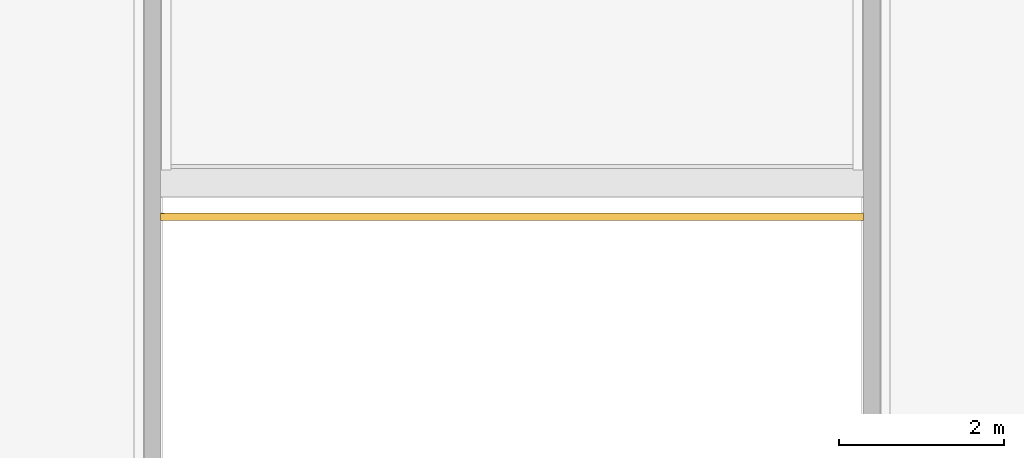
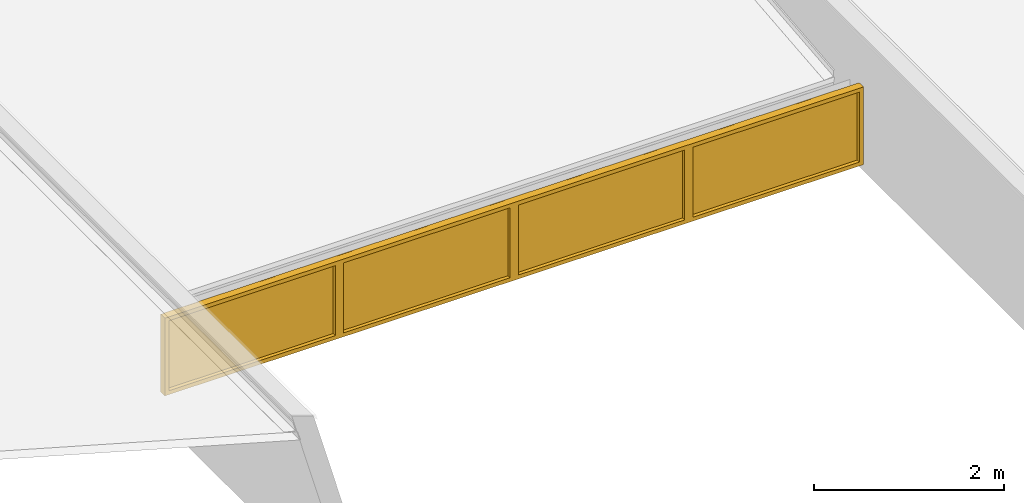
# One storey, part 24 of 25: 1 shading device.
"""IFC4 building model written with IfcOpenShell, lengths in metres."""

from ifc_helpers import new_model, entity, si_unit, converted_unit, derived_unit, direction, frame, origin_with_axes, place, context, subcontext, project, spatial, polygons, material, constituent, constituent_set, type_object, element, save


model = new_model("IFC4")

# Units and contexts
model_context = context("Model", 3, precision=1e-05, world=origin_with_axes(), true_north=direction((0.0, 1.0)))
body_context = subcontext(model_context, "Body", "Model", "MODEL_VIEW")
ifc_project = project(units=[si_unit("LENGTHUNIT", "METRE"), si_unit("AREAUNIT", "SQUARE_METRE"), si_unit("VOLUMEUNIT", "CUBIC_METRE"), converted_unit("PLANEANGLEUNIT", "DEGREE", entity("IfcPlaneAngleMeasure", 0.0174532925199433), si_unit("PLANEANGLEUNIT", "RADIAN"), dimensions=[0, 0, 0, 0, 0, 0, 0]), converted_unit("TIMEUNIT", "Year", entity("IfcTimeMeasure", 31557600.0), si_unit("TIMEUNIT", "SECOND"), dimensions=[0, 0, 1, 0, 0, 0, 0]), si_unit("MASSUNIT", "GRAM", prefix="KILO"), si_unit("THERMODYNAMICTEMPERATUREUNIT", "DEGREE_CELSIUS"), si_unit("LUMINOUSINTENSITYUNIT", "LUMEN"), si_unit("ENERGYUNIT", "JOULE", prefix="MEGA"), derived_unit("THERMALCONDUCTANCEUNIT", [(si_unit("POWERUNIT", "WATT"), 1), (si_unit("LENGTHUNIT", "METRE"), -1), (si_unit("THERMODYNAMICTEMPERATUREUNIT", "KELVIN"), -1)]), derived_unit("SPECIFICHEATCAPACITYUNIT", [(si_unit("ENERGYUNIT", "JOULE"), 1), (si_unit("MASSUNIT", "GRAM", prefix="KILO"), -1), (si_unit("THERMODYNAMICTEMPERATUREUNIT", "KELVIN"), -1)]), derived_unit("MASSDENSITYUNIT", [(si_unit("MASSUNIT", "GRAM", prefix="KILO"), 1), (si_unit("VOLUMEUNIT", "CUBIC_METRE"), -1)])], contexts=[model_context])

# Site, building, storey
site_placement = place(None, origin_with_axes())
site = spatial("IfcSite", under=ifc_project, at=site_placement, Name="PADRÃO", CompositionType="ELEMENT")
building_placement = place(site_placement, origin_with_axes())
building = spatial("IfcBuilding", under=site, at=building_placement, Name="CRECHE PRÉ-ESCOLA TIPO 2", CompositionType="ELEMENT")
storey_placement = place(building_placement, frame((0.0, 0.0, 3.26), z_axis=(0.0, 0.0, 1.0), x_axis=(1.0, 0.0, 0.0)))
storey = spatial("IfcBuildingStorey", under=building, at=storey_placement, Name="COBERTURA", CompositionType="ELEMENT", Elevation=3.26)

# Shading device
ifc_material_1 = material(Name="EI-MTL-PERFIL EM AÇO GALVANIZADO -AZUL")
ifc_constituent_1 = constituent(ifc_material_1, Name="EI-MTL-PERFIL EM AÇO GALVANIZADO -AZUL 1")
ifc_constituent_2 = constituent(ifc_material_1, Name="EI-MTL-PERFIL EM AÇO GALVANIZADO -AZUL 2")
ifc_material_2 = material(Name="EI-MTL-CHAPA DE AÇO CARBONO PERFURADA -AZUL")
ifc_constituent_3 = constituent(ifc_material_2, Name="EI-MTL-CHAPA DE AÇO CARBONO PERFURADA -AZUL 1")
ifc_constituent_4 = constituent(ifc_material_1, Name="EI-MTL-PERFIL EM AÇO GALVANIZADO -AZUL 3")
ifc_constituent_5 = constituent(ifc_material_1, Name="EI-MTL-PERFIL EM AÇO GALVANIZADO -AZUL 4")
ifc_material_3 = material(Name="Volume de Ar - Moldura")
ifc_constituent_6 = constituent(ifc_material_3, Name="Volume de Ar - Moldura 1")
ifc_constituent_7 = constituent(ifc_material_1, Name="EI-MTL-PERFIL EM AÇO GALVANIZADO -AZUL 5")
ifc_constituent_8 = constituent(ifc_material_1, Name="EI-MTL-PERFIL EM AÇO GALVANIZADO -AZUL 6")
ifc_constituent_9 = constituent(ifc_material_2, Name="EI-MTL-CHAPA DE AÇO CARBONO PERFURADA -AZUL 2")
ifc_constituent_10 = constituent(ifc_material_1, Name="EI-MTL-PERFIL EM AÇO GALVANIZADO -AZUL 7")
ifc_constituent_11 = constituent(ifc_material_1, Name="EI-MTL-PERFIL EM AÇO GALVANIZADO -AZUL 8")
ifc_constituent_12 = constituent(ifc_material_3, Name="Volume de Ar - Moldura 2")
ifc_constituent_13 = constituent(ifc_material_1, Name="EI-MTL-PERFIL EM AÇO GALVANIZADO -AZUL 9")
ifc_constituent_14 = constituent(ifc_material_1, Name="EI-MTL-PERFIL EM AÇO GALVANIZADO -AZUL 10")
ifc_constituent_15 = constituent(ifc_material_2, Name="EI-MTL-CHAPA DE AÇO CARBONO PERFURADA -AZUL 3")
ifc_constituent_16 = constituent(ifc_material_1, Name="EI-MTL-PERFIL EM AÇO GALVANIZADO -AZUL 11")
ifc_constituent_17 = constituent(ifc_material_1, Name="EI-MTL-PERFIL EM AÇO GALVANIZADO -AZUL 12")
ifc_constituent_18 = constituent(ifc_material_3, Name="Volume de Ar - Moldura 3")
ifc_constituent_19 = constituent(ifc_material_1, Name="EI-MTL-PERFIL EM AÇO GALVANIZADO -AZUL 13")
ifc_constituent_20 = constituent(ifc_material_1, Name="EI-MTL-PERFIL EM AÇO GALVANIZADO -AZUL 14")
ifc_constituent_21 = constituent(ifc_material_2, Name="EI-MTL-CHAPA DE AÇO CARBONO PERFURADA -AZUL 4")
ifc_constituent_22 = constituent(ifc_material_1, Name="EI-MTL-PERFIL EM AÇO GALVANIZADO -AZUL 15")
ifc_constituent_23 = constituent(ifc_material_1, Name="EI-MTL-PERFIL EM AÇO GALVANIZADO -AZUL 16")
ifc_constituent_set = constituent_set(constituents=[ifc_constituent_1, ifc_constituent_2, ifc_constituent_3, ifc_constituent_4, ifc_constituent_5, ifc_constituent_6, ifc_constituent_7, ifc_constituent_8, ifc_constituent_9, ifc_constituent_10, ifc_constituent_11, ifc_constituent_12, ifc_constituent_13, ifc_constituent_14, ifc_constituent_15, ifc_constituent_16, ifc_constituent_17, ifc_constituent_18, ifc_constituent_19, ifc_constituent_20, ifc_constituent_21, ifc_constituent_22, ifc_constituent_23])
shading_device_type = type_object("IfcShadingDeviceType", Name="Várias Estruturas- 15 Segmentos - 90 x 1000 x 8500 (50+2024+50+1+50+2024+50+1+50+2024+50+1+50+2024+50)", PredefinedType="NOTDEFINED")
shading_device_placement = place(storey_placement, frame((-17.5400505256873, 10.200115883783, 0.0270000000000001), z_axis=(0.0, 0.0, 1.0), x_axis=(-8.64941134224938e-08, 0.999999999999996, 0.0)))
element("IfcShadingDevice", 1, at=shading_device_placement, inside=storey, type_object=shading_device_type, material=ifc_constituent_set, PredefinedType="NOTDEFINED", context=body_context, shape_type="Tessellation", body=[
    polygons([(0.0, 0.0500000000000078, -0.36), (0.0, 0.0500000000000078, 0.620858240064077), (0.0, 0.0, 0.620858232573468), (0.0, 0.0, -0.36), (-0.00668827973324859, 0.0500000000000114, 0.64), (-0.00668827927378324, 0.0500000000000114, 0.632442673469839), (-0.0899999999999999, 0.0500000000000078, -0.36), (-0.0899999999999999, 0.0500000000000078, 0.64), (-0.00668828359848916, 0.0, 0.632442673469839), (-0.00668828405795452, 0.0, 0.64), (-0.0899999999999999, 0.0, 0.64), (-0.0899999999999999, 0.0, -0.36)], [[[1, 2, 3, 4]], [[5, 6, 2, 1, 7, 8]], [[6, 9, 3, 2]], [[3, 9, 10, 11, 12, 4]], [[4, 12, 7, 1]], [[6, 5, 10, 9]], [[12, 11, 8, 7]], [[11, 10, 5, 8]]], closed=True),
    polygons([(0.0, 0.0, 0.64), (-0.00618828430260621, 0.0, 0.64), (-0.0061882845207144, 0.0, 0.632576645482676), (0.0, 0.0, 0.621858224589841), (0.0, 0.0500000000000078, 0.64), (-0.00618827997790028, 0.0500000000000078, 0.64), (-0.00618828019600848, 0.0500000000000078, 0.632576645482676), (0.0, 0.0500000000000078, 0.62185823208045)], [[[1, 2, 3, 4]], [[5, 6, 2, 1]], [[7, 3, 2, 6]], [[7, 8, 4, 3]], [[1, 4, 8, 5]], [[8, 7, 6, 5]]], closed=True),
    polygons([(0.0, 2.07425738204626, -0.31000000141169), (-0.0442499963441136, 2.07425738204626, -0.31000000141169), (-0.0442499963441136, 0.0500000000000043, -0.31000000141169), (0.0, 0.0500000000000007, -0.31000000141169), (0.0, 2.07425738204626, -0.36), (-0.0900000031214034, 2.07425738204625, -0.36), (-0.0900000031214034, 2.07425738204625, -0.31000000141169), (-0.0457500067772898, 2.07425738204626, -0.31000000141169), (-0.0457500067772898, 0.0500000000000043, -0.31000000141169), (-0.0900000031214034, 0.0500000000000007, -0.31000000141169), (-0.0900000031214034, 0.0500000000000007, -0.36), (0.0, 0.0500000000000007, -0.36)], [[[1, 2, 3, 4]], [[1, 5, 6, 7, 8, 2]], [[2, 8, 9, 3]], [[4, 3, 9, 10, 11, 12]], [[5, 1, 4, 12]], [[6, 5, 12, 11]], [[7, 6, 11, 10]], [[8, 7, 10, 9]]], closed=True),
    polygons([(-0.044249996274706, 2.07425738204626, 0.590000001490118), (-0.0457500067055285, 2.07425738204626, 0.590000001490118), (-0.0457500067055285, 0.0500000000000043, 0.590000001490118), (-0.044249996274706, 0.0500000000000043, 0.590000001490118), (-0.044249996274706, 2.07425738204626, -0.31), (-0.0457500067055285, 2.07425738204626, -0.31), (-0.0457500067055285, 0.0500000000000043, -0.31), (-0.044249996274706, 0.0500000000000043, -0.31)], [[[1, 2, 3, 4]], [[1, 5, 6, 2]], [[2, 6, 7, 3]], [[4, 3, 7, 8]], [[5, 1, 4, 8]], [[6, 5, 8, 7]]], closed=True),
    polygons([(0.0, 2.07425738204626, 0.62085854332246), (0.0, 0.0500000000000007, 0.620858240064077), (0.0, 0.0500000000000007, 0.59), (0.0, 2.07425738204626, 0.59), (-0.00668827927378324, 0.0500000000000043, 0.632442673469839), (-0.00668810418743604, 2.07425738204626, 0.632442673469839), (-0.00668827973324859, 0.0500000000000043, 0.64), (-0.0899999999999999, 0.0500000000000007, 0.64), (-0.0899999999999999, 0.0500000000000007, 0.59), (-0.0457500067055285, 0.0500000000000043, 0.590000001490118), (-0.044249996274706, 0.0500000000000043, 0.590000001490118), (-0.044249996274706, 2.07425738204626, 0.590000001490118), (-0.0457500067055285, 2.07425738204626, 0.590000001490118), (-0.0899999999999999, 2.07425738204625, 0.59), (-0.0899999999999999, 2.07425738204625, 0.64), (-0.00668810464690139, 2.07425738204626, 0.64)], [[[1, 2, 3, 4]], [[5, 2, 1, 6]], [[5, 7, 8, 9, 10, 11, 3, 2]], [[11, 12, 4, 3]], [[6, 1, 4, 12, 13, 14, 15, 16]], [[16, 7, 5, 6]], [[7, 16, 15, 8]], [[8, 15, 14, 9]], [[9, 14, 13, 10]], [[10, 13, 12, 11]]], closed=True),
    polygons([(-0.00618827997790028, 0.0500000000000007, 0.64), (-0.00618828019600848, 0.0500000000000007, 0.632576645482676), (0.0, 0.0500000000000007, 0.62185823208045), (0.0, 0.0500000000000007, 0.64), (-0.00618810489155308, 2.07425738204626, 0.64), (-0.00618810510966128, 2.07425738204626, 0.632576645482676), (0.0, 2.07425738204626, 0.621858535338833), (0.0, 2.07425738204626, 0.64)], [[[1, 2, 3, 4]], [[2, 1, 5, 6]], [[7, 3, 2, 6]], [[3, 7, 8, 4]], [[5, 1, 4, 8]], [[6, 5, 8, 7]]], closed=True),
    polygons([(0.0, 2.12425738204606, -0.36), (0.0, 2.12425738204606, 0.62085855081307), (0.0, 2.07425738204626, 0.62085854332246), (0.0, 2.07425738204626, -0.36), (-0.00668810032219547, 2.12425738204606, 0.64), (-0.00668809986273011, 2.12425738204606, 0.632442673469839), (-0.0899999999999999, 2.12425738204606, -0.36), (-0.0899999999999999, 2.12425738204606, 0.64), (-0.00668810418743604, 2.07425738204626, 0.632442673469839), (-0.00668810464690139, 2.07425738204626, 0.64), (-0.0899999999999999, 2.07425738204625, 0.64), (-0.0899999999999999, 2.07425738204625, -0.36)], [[[1, 2, 3, 4]], [[5, 6, 2, 1, 7, 8]], [[6, 9, 3, 2]], [[3, 9, 10, 11, 12, 4]], [[4, 12, 7, 1]], [[6, 5, 10, 9]], [[12, 11, 8, 7]], [[11, 10, 5, 8]]], closed=True),
    polygons([(0.0, 2.07425738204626, 0.64), (-0.00618810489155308, 2.07425738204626, 0.64), (-0.00618810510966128, 2.07425738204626, 0.632576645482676), (0.0, 2.07425738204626, 0.621858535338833), (0.0, 2.12425738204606, 0.64), (-0.00618810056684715, 2.12425738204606, 0.64), (-0.00618810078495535, 2.12425738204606, 0.632576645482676), (0.0, 2.12425738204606, 0.621858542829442)], [[[1, 2, 3, 4]], [[5, 6, 2, 1]], [[7, 3, 2, 6]], [[7, 8, 4, 3]], [[1, 4, 8, 5]], [[8, 7, 6, 5]]], closed=True),
    polygons([(0.0, 2.12525738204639, 0.620858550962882), (0.0, 2.12425738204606, 0.62085855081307), (0.0, 2.12425738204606, -0.36), (0.0, 2.12525738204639, -0.36), (-0.00668809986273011, 2.12425738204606, 0.632442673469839), (-0.00668809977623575, 2.12525738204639, 0.632442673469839), (-0.00668810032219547, 2.12425738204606, 0.64), (-0.0899999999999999, 2.12425738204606, 0.64), (-0.0899999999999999, 2.12425738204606, -0.36), (-0.0899999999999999, 2.12525738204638, -0.36), (-0.0899999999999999, 2.12525738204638, 0.64), (-0.0066881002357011, 2.12525738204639, 0.64)], [[[1, 2, 3, 4]], [[5, 2, 1, 6]], [[5, 7, 8, 9, 3, 2]], [[9, 10, 4, 3]], [[6, 1, 4, 10, 11, 12]], [[12, 7, 5, 6]], [[7, 12, 11, 8]], [[8, 11, 10, 9]]], closed=True),
    polygons([(-0.00618810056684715, 2.12425738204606, 0.64), (-0.00618810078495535, 2.12425738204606, 0.632576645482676), (0.0, 2.12425738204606, 0.621858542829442), (0.0, 2.12425738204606, 0.64), (-0.00618810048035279, 2.12525738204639, 0.64), (-0.00618810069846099, 2.12525738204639, 0.632576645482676), (0.0, 2.12525738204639, 0.621858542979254), (0.0, 2.12525738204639, 0.64)], [[[1, 2, 3, 4]], [[2, 1, 5, 6]], [[7, 3, 2, 6]], [[3, 7, 8, 4]], [[5, 1, 4, 8]], [[6, 5, 8, 7]]], closed=True),
    polygons([(0.0, 2.17525738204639, -0.36), (0.0, 2.17525738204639, 0.620858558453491), (0.0, 2.12525738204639, 0.620858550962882), (0.0, 2.12525738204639, -0.36), (-0.00668809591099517, 2.17525738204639, 0.64), (-0.00668809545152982, 2.17525738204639, 0.632442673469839), (-0.0900000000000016, 2.17525738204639, -0.36), (-0.0900000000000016, 2.17525738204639, 0.64), (-0.00668809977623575, 2.12525738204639, 0.632442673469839), (-0.0066881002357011, 2.12525738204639, 0.64), (-0.0899999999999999, 2.12525738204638, 0.64), (-0.0899999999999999, 2.12525738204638, -0.36)], [[[1, 2, 3, 4]], [[5, 6, 2, 1, 7, 8]], [[6, 9, 3, 2]], [[3, 9, 10, 11, 12, 4]], [[4, 12, 7, 1]], [[6, 5, 10, 9]], [[12, 11, 8, 7]], [[11, 10, 5, 8]]], closed=True),
    polygons([(0.0, 2.12525738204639, 0.64), (-0.00618810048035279, 2.12525738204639, 0.64), (-0.00618810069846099, 2.12525738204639, 0.632576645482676), (0.0, 2.12525738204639, 0.621858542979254), (0.0, 2.17525738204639, 0.64), (-0.00618809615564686, 2.17525738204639, 0.64), (-0.00618809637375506, 2.17525738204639, 0.632576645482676), (0.0, 2.17525738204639, 0.621858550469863)], [[[1, 2, 3, 4]], [[5, 6, 2, 1]], [[7, 3, 2, 6]], [[7, 8, 4, 3]], [[1, 4, 8, 5]], [[8, 7, 6, 5]]], closed=True),
    polygons([(0.0, 4.19951476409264, -0.31000000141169), (-0.0442499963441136, 4.19951476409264, -0.31000000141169), (-0.0442499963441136, 2.17525738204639, -0.31000000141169), (0.0, 2.17525738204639, -0.31000000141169), (0.0, 4.19951476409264, -0.36), (-0.0900000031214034, 4.19951476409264, -0.36), (-0.0900000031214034, 4.19951476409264, -0.31000000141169), (-0.0457500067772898, 4.19951476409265, -0.31000000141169), (-0.0457500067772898, 2.17525738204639, -0.31000000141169), (-0.0900000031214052, 2.17525738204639, -0.31000000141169), (-0.0900000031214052, 2.17525738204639, -0.36), (0.0, 2.17525738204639, -0.36)], [[[1, 2, 3, 4]], [[1, 5, 6, 7, 8, 2]], [[2, 8, 9, 3]], [[4, 3, 9, 10, 11, 12]], [[5, 1, 4, 12]], [[6, 5, 12, 11]], [[7, 6, 11, 10]], [[8, 7, 10, 9]]], closed=True),
    polygons([(-0.044249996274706, 4.19951476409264, 0.590000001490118), (-0.0457500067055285, 4.19951476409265, 0.590000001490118), (-0.0457500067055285, 2.17525738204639, 0.590000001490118), (-0.044249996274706, 2.17525738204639, 0.590000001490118), (-0.044249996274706, 4.19951476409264, -0.31), (-0.0457500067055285, 4.19951476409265, -0.31), (-0.0457500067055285, 2.17525738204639, -0.31), (-0.044249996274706, 2.17525738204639, -0.31)], [[[1, 2, 3, 4]], [[1, 5, 6, 2]], [[2, 6, 7, 3]], [[4, 3, 7, 8]], [[5, 1, 4, 8]], [[6, 5, 8, 7]]], closed=True),
    polygons([(0.0, 4.19951476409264, 0.620858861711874), (0.0, 2.17525738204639, 0.620858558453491), (0.0, 2.17525738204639, 0.59), (0.0, 4.19951476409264, 0.59), (-0.00668809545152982, 2.17525738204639, 0.632442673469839), (-0.00668792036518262, 4.19951476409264, 0.632442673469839), (-0.00668809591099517, 2.17525738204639, 0.64), (-0.0900000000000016, 2.17525738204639, 0.64), (-0.0900000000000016, 2.17525738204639, 0.59), (-0.0457500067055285, 2.17525738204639, 0.590000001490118), (-0.044249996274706, 2.17525738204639, 0.590000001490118), (-0.044249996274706, 4.19951476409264, 0.590000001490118), (-0.0457500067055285, 4.19951476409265, 0.590000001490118), (-0.0899999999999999, 4.19951476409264, 0.59), (-0.0899999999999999, 4.19951476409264, 0.64), (-0.00668792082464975, 4.19951476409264, 0.64)], [[[1, 2, 3, 4]], [[5, 2, 1, 6]], [[5, 7, 8, 9, 10, 11, 3, 2]], [[11, 12, 4, 3]], [[6, 1, 4, 12, 13, 14, 15, 16]], [[16, 7, 5, 6]], [[7, 16, 15, 8]], [[8, 15, 14, 9]], [[9, 14, 13, 10]], [[10, 13, 12, 11]]], closed=True),
    polygons([(-0.00618809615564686, 2.17525738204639, 0.64), (-0.00618809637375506, 2.17525738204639, 0.632576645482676), (0.0, 2.17525738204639, 0.621858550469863), (0.0, 2.17525738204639, 0.64), (-0.00618792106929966, 4.19951476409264, 0.64), (-0.00618792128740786, 4.19951476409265, 0.632576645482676), (0.0, 4.19951476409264, 0.621858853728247), (0.0, 4.19951476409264, 0.64)], [[[1, 2, 3, 4]], [[2, 1, 5, 6]], [[7, 3, 2, 6]], [[3, 7, 8, 4]], [[5, 1, 4, 8]], [[6, 5, 8, 7]]], closed=True),
    polygons([(0.0, 4.24951476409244, -0.36), (0.0, 4.24951476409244, 0.620858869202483), (0.0, 4.19951476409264, 0.620858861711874), (0.0, 4.19951476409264, -0.36), (-0.00668791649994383, 4.24951476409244, 0.64), (-0.00668791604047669, 4.24951476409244, 0.632442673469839), (-0.0899999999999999, 4.24951476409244, -0.36), (-0.0899999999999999, 4.24951476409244, 0.64), (-0.00668792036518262, 4.19951476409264, 0.632442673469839), (-0.00668792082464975, 4.19951476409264, 0.64), (-0.0899999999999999, 4.19951476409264, 0.64), (-0.0899999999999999, 4.19951476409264, -0.36)], [[[1, 2, 3, 4]], [[5, 6, 2, 1, 7, 8]], [[6, 9, 3, 2]], [[3, 9, 10, 11, 12, 4]], [[4, 12, 7, 1]], [[6, 5, 10, 9]], [[12, 11, 8, 7]], [[11, 10, 5, 8]]], closed=True),
    polygons([(0.0, 4.19951476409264, 0.64), (-0.00618792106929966, 4.19951476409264, 0.64), (-0.00618792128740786, 4.19951476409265, 0.632576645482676), (0.0, 4.19951476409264, 0.621858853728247), (0.0, 4.24951476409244, 0.64), (-0.00618791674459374, 4.24951476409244, 0.64), (-0.00618791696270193, 4.24951476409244, 0.632576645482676), (0.0, 4.24951476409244, 0.621858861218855)], [[[1, 2, 3, 4]], [[5, 6, 2, 1]], [[7, 3, 2, 6]], [[7, 8, 4, 3]], [[1, 4, 8, 5]], [[8, 7, 6, 5]]], closed=True),
    polygons([(0.0, 4.25051476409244, 0.620858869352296), (0.0, 4.24951476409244, 0.620858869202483), (0.0, 4.24951476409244, -0.36), (0.0, 4.25051476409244, -0.36), (-0.00668791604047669, 4.24951476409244, 0.632442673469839), (-0.00668791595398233, 4.25051476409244, 0.632442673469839), (-0.00668791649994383, 4.24951476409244, 0.64), (-0.0899999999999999, 4.24951476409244, 0.64), (-0.0899999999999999, 4.24951476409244, -0.36), (-0.0900000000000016, 4.25051476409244, -0.36), (-0.0900000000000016, 4.25051476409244, 0.64), (-0.00668791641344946, 4.25051476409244, 0.64)], [[[1, 2, 3, 4]], [[5, 2, 1, 6]], [[5, 7, 8, 9, 3, 2]], [[9, 10, 4, 3]], [[6, 1, 4, 10, 11, 12]], [[12, 7, 5, 6]], [[7, 12, 11, 8]], [[8, 11, 10, 9]]], closed=True),
    polygons([(-0.00618791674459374, 4.24951476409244, 0.64), (-0.00618791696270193, 4.24951476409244, 0.632576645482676), (0.0, 4.24951476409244, 0.621858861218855), (0.0, 4.24951476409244, 0.64), (-0.00618791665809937, 4.25051476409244, 0.64), (-0.00618791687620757, 4.25051476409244, 0.632576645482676), (0.0, 4.25051476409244, 0.621858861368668), (0.0, 4.25051476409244, 0.64)], [[[1, 2, 3, 4]], [[2, 1, 5, 6]], [[7, 3, 2, 6]], [[3, 7, 8, 4]], [[5, 1, 4, 8]], [[6, 5, 8, 7]]], closed=True),
    polygons([(0.0, 4.30051476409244, -0.36), (0.0, 4.30051476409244, 0.620858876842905), (0.0, 4.25051476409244, 0.620858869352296), (0.0, 4.25051476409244, -0.36), (-0.00668791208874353, 4.30051476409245, 0.64), (-0.0066879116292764, 4.30051476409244, 0.632442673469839), (-0.0900000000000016, 4.30051476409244, -0.36), (-0.0900000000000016, 4.30051476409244, 0.64), (-0.00668791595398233, 4.25051476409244, 0.632442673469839), (-0.00668791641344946, 4.25051476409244, 0.64), (-0.0900000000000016, 4.25051476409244, 0.64), (-0.0900000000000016, 4.25051476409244, -0.36)], [[[1, 2, 3, 4]], [[5, 6, 2, 1, 7, 8]], [[6, 9, 3, 2]], [[3, 9, 10, 11, 12, 4]], [[4, 12, 7, 1]], [[6, 5, 10, 9]], [[12, 11, 8, 7]], [[11, 10, 5, 8]]], closed=True),
    polygons([(0.0, 4.25051476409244, 0.64), (-0.00618791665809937, 4.25051476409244, 0.64), (-0.00618791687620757, 4.25051476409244, 0.632576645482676), (0.0, 4.25051476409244, 0.621858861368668), (0.0, 4.30051476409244, 0.64), (-0.00618791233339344, 4.30051476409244, 0.64), (-0.00618791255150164, 4.30051476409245, 0.632576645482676), (0.0, 4.30051476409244, 0.621858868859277)], [[[1, 2, 3, 4]], [[5, 6, 2, 1]], [[7, 3, 2, 6]], [[7, 8, 4, 3]], [[1, 4, 8, 5]], [[8, 7, 6, 5]]], closed=True),
    polygons([(0.0, 6.3247721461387, -0.31000000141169), (-0.0442499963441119, 6.3247721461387, -0.31000000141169), (-0.0442499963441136, 4.30051476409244, -0.31000000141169), (0.0, 4.30051476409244, -0.31000000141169), (0.0, 6.3247721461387, -0.36), (-0.0900000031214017, 6.3247721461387, -0.36), (-0.0900000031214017, 6.3247721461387, -0.31000000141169), (-0.045750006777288, 6.3247721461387, -0.31000000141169), (-0.0457500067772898, 4.30051476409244, -0.31000000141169), (-0.0900000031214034, 4.30051476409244, -0.31000000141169), (-0.0900000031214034, 4.30051476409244, -0.36), (0.0, 4.30051476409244, -0.36)], [[[1, 2, 3, 4]], [[1, 5, 6, 7, 8, 2]], [[2, 8, 9, 3]], [[4, 3, 9, 10, 11, 12]], [[5, 1, 4, 12]], [[6, 5, 12, 11]], [[7, 6, 11, 10]], [[8, 7, 10, 9]]], closed=True),
    polygons([(-0.0442499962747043, 6.3247721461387, 0.590000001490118), (-0.0457500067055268, 6.3247721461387, 0.590000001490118), (-0.0457500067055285, 4.30051476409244, 0.590000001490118), (-0.044249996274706, 4.30051476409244, 0.590000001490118), (-0.0442499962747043, 6.3247721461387, -0.31), (-0.0457500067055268, 6.3247721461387, -0.31), (-0.0457500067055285, 4.30051476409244, -0.31), (-0.044249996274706, 4.30051476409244, -0.31)], [[[1, 2, 3, 4]], [[1, 5, 6, 2]], [[2, 6, 7, 3]], [[4, 3, 7, 8]], [[5, 1, 4, 8]], [[6, 5, 8, 7]]], closed=True),
    polygons([(0.0, 6.3247721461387, 0.620859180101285), (0.0, 4.30051476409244, 0.620858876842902), (0.0, 4.30051476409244, 0.59), (0.0, 6.3247721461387, 0.59), (-0.0066879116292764, 4.30051476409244, 0.632442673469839), (-0.0066877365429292, 6.3247721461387, 0.632442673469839), (-0.00668791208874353, 4.30051476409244, 0.64), (-0.0899999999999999, 4.30051476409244, 0.64), (-0.0899999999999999, 4.30051476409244, 0.59), (-0.0457500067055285, 4.30051476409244, 0.590000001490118), (-0.044249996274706, 4.30051476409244, 0.590000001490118), (-0.0442499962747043, 6.3247721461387, 0.590000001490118), (-0.0457500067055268, 6.3247721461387, 0.590000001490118), (-0.0899999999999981, 6.3247721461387, 0.59), (-0.0899999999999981, 6.3247721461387, 0.64), (-0.00668773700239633, 6.3247721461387, 0.64)], [[[1, 2, 3, 4]], [[5, 2, 1, 6]], [[5, 7, 8, 9, 10, 11, 3, 2]], [[11, 12, 4, 3]], [[6, 1, 4, 12, 13, 14, 15, 16]], [[16, 7, 5, 6]], [[7, 16, 15, 8]], [[8, 15, 14, 9]], [[9, 14, 13, 10]], [[10, 13, 12, 11]]], closed=True),
    polygons([(-0.00618791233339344, 4.30051476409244, 0.64), (-0.00618791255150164, 4.30051476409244, 0.632576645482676), (0.0, 4.30051476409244, 0.621858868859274), (0.0, 4.30051476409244, 0.64), (-0.00618773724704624, 6.3247721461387, 0.64), (-0.00618773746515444, 6.3247721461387, 0.632576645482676), (0.0, 6.3247721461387, 0.621859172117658), (0.0, 6.3247721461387, 0.64)], [[[1, 2, 3, 4]], [[2, 1, 5, 6]], [[7, 3, 2, 6]], [[3, 7, 8, 4]], [[5, 1, 4, 8]], [[6, 5, 8, 7]]], closed=True),
    polygons([(0.0, 6.37478844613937, -0.36), (0.0, 6.37478844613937, 0.620859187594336), (0.0, 6.3247721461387, 0.620859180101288), (0.0, 6.3247721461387, -0.36), (-0.00668773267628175, 6.37478844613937, 0.64), (-0.00668773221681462, 6.37478844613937, 0.632442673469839), (-0.0899999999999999, 6.37478844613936, -0.36), (-0.0899999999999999, 6.37478844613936, 0.64), (-0.0066877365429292, 6.3247721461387, 0.632442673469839), (-0.00668773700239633, 6.3247721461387, 0.64), (-0.0899999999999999, 6.3247721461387, 0.64), (-0.0899999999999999, 6.3247721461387, -0.36)], [[[1, 2, 3, 4]], [[5, 6, 2, 1, 7, 8]], [[6, 9, 3, 2]], [[3, 9, 10, 11, 12, 4]], [[4, 12, 7, 1]], [[6, 5, 10, 9]], [[12, 11, 8, 7]], [[11, 10, 5, 8]]], closed=True),
    polygons([(0.0, 6.3247721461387, 0.64), (-0.00618773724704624, 6.3247721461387, 0.64), (-0.00618773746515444, 6.3247721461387, 0.632576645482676), (0.0, 6.3247721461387, 0.621859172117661), (0.0, 6.37478844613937, 0.64), (-0.00618773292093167, 6.37478844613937, 0.64), (-0.00618773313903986, 6.37478844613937, 0.632576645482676), (0.0, 6.37478844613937, 0.621859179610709)], [[[1, 2, 3, 4]], [[5, 6, 2, 1]], [[7, 3, 2, 6]], [[7, 8, 4, 3]], [[1, 4, 8, 5]], [[8, 7, 6, 5]]], closed=True),
    polygons([(0.0, 6.37578844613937, 0.620859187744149), (0.0, 6.37478844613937, 0.620859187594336), (0.0, 6.37478844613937, -0.36), (0.0, 6.37578844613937, -0.36), (-0.00668773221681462, 6.37478844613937, 0.632442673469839), (-0.00668773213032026, 6.37578844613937, 0.632442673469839), (-0.00668773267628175, 6.37478844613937, 0.64), (-0.0899999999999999, 6.37478844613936, 0.64), (-0.0899999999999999, 6.37478844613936, -0.36), (-0.0899999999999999, 6.37578844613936, -0.36), (-0.0899999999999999, 6.37578844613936, 0.64), (-0.00668773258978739, 6.37578844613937, 0.64)], [[[1, 2, 3, 4]], [[5, 2, 1, 6]], [[5, 7, 8, 9, 3, 2]], [[9, 10, 4, 3]], [[6, 1, 4, 10, 11, 12]], [[12, 7, 5, 6]], [[7, 12, 11, 8]], [[8, 11, 10, 9]]], closed=True),
    polygons([(-0.00618773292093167, 6.37478844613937, 0.64), (-0.00618773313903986, 6.37478844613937, 0.632576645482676), (0.0, 6.37478844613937, 0.621859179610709), (0.0, 6.37478844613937, 0.64), (-0.0061877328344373, 6.37578844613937, 0.64), (-0.0061877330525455, 6.37578844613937, 0.632576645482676), (0.0, 6.37578844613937, 0.621859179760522), (0.0, 6.37578844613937, 0.64)], [[[1, 2, 3, 4]], [[2, 1, 5, 6]], [[7, 3, 2, 6]], [[3, 7, 8, 4]], [[5, 1, 4, 8]], [[6, 5, 8, 7]]], closed=True),
    polygons([(0.0, 6.42578844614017, -0.36), (0.0, 6.42578844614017, 0.620859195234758), (0.0, 6.37578844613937, 0.620859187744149), (0.0, 6.37578844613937, -0.36), (-0.00668772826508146, 6.42578844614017, 0.64), (-0.00668772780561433, 6.42578844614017, 0.632442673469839), (-0.0899999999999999, 6.42578844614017, -0.36), (-0.0899999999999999, 6.42578844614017, 0.64), (-0.00668773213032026, 6.37578844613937, 0.632442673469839), (-0.00668773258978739, 6.37578844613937, 0.64), (-0.0899999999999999, 6.37578844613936, 0.64), (-0.0899999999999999, 6.37578844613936, -0.36)], [[[1, 2, 3, 4]], [[5, 6, 2, 1, 7, 8]], [[6, 9, 3, 2]], [[3, 9, 10, 11, 12, 4]], [[4, 12, 7, 1]], [[6, 5, 10, 9]], [[12, 11, 8, 7]], [[11, 10, 5, 8]]], closed=True),
    polygons([(0.0, 6.37578844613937, 0.64), (-0.0061877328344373, 6.37578844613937, 0.64), (-0.0061877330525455, 6.37578844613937, 0.632576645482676), (0.0, 6.37578844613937, 0.621859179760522), (0.0, 6.42578844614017, 0.64), (-0.00618772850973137, 6.42578844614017, 0.64), (-0.00618772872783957, 6.42578844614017, 0.632576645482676), (0.0, 6.42578844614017, 0.62185918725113)], [[[1, 2, 3, 4]], [[5, 6, 2, 1]], [[7, 3, 2, 6]], [[7, 8, 4, 3]], [[1, 4, 8, 5]], [[8, 7, 6, 5]]], closed=True),
    polygons([(0.0, 8.45004582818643, -0.31000000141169), (-0.0442499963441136, 8.45004582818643, -0.31000000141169), (-0.0442499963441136, 6.42578844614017, -0.31000000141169), (0.0, 6.42578844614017, -0.31000000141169), (0.0, 8.45004582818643, -0.36), (-0.0900000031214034, 8.45004582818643, -0.36), (-0.0900000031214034, 8.45004582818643, -0.31000000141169), (-0.0457500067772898, 8.45004582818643, -0.31000000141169), (-0.0457500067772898, 6.42578844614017, -0.31000000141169), (-0.0900000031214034, 6.42578844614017, -0.31000000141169), (-0.0900000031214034, 6.42578844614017, -0.36), (0.0, 6.42578844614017, -0.36)], [[[1, 2, 3, 4]], [[1, 5, 6, 7, 8, 2]], [[2, 8, 9, 3]], [[4, 3, 9, 10, 11, 12]], [[5, 1, 4, 12]], [[6, 5, 12, 11]], [[7, 6, 11, 10]], [[8, 7, 10, 9]]], closed=True),
    polygons([(-0.044249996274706, 8.45004582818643, 0.590000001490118), (-0.0457500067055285, 8.45004582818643, 0.590000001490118), (-0.0457500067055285, 6.42578844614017, 0.590000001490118), (-0.044249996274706, 6.42578844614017, 0.590000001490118), (-0.044249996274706, 8.45004582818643, -0.31), (-0.0457500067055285, 8.45004582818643, -0.31), (-0.0457500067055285, 6.42578844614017, -0.31), (-0.044249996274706, 6.42578844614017, -0.31)], [[[1, 2, 3, 4]], [[1, 5, 6, 2]], [[2, 6, 7, 3]], [[4, 3, 7, 8]], [[5, 1, 4, 8]], [[6, 5, 8, 7]]], closed=True),
    polygons([(0.0, 8.45004582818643, 0.620859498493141), (0.0, 6.42578844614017, 0.620859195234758), (0.0, 6.42578844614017, 0.59), (0.0, 8.45004582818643, 0.59), (-0.00668772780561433, 6.42578844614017, 0.632442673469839), (-0.00668755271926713, 8.45004582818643, 0.632442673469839), (-0.00668772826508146, 6.42578844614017, 0.64), (-0.0899999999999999, 6.42578844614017, 0.64), (-0.0899999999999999, 6.42578844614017, 0.59), (-0.0457500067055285, 6.42578844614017, 0.590000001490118), (-0.044249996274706, 6.42578844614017, 0.590000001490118), (-0.044249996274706, 8.45004582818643, 0.590000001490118), (-0.0457500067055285, 8.45004582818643, 0.590000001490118), (-0.0899999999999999, 8.45004582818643, 0.59), (-0.0899999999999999, 8.45004582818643, 0.64), (-0.00668755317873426, 8.45004582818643, 0.64)], [[[1, 2, 3, 4]], [[5, 2, 1, 6]], [[5, 7, 8, 9, 10, 11, 3, 2]], [[11, 12, 4, 3]], [[6, 1, 4, 12, 13, 14, 15, 16]], [[16, 7, 5, 6]], [[7, 16, 15, 8]], [[8, 15, 14, 9]], [[9, 14, 13, 10]], [[10, 13, 12, 11]]], closed=True),
    polygons([(-0.00618772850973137, 6.42578844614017, 0.64), (-0.00618772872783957, 6.42578844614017, 0.632576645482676), (0.0, 6.42578844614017, 0.62185918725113), (0.0, 6.42578844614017, 0.64), (-0.00618755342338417, 8.45004582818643, 0.64), (-0.00618755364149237, 8.45004582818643, 0.632576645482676), (0.0, 8.45004582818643, 0.621859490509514), (0.0, 8.45004582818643, 0.64)], [[[1, 2, 3, 4]], [[2, 1, 5, 6]], [[7, 3, 2, 6]], [[3, 7, 8, 4]], [[5, 1, 4, 8]], [[6, 5, 8, 7]]], closed=True),
    polygons([(0.0, 8.45004582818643, 0.64), (-0.00618755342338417, 8.45004582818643, 0.64), (-0.00618755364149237, 8.45004582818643, 0.632576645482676), (0.0, 8.45004582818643, 0.621859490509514), (-0.00668754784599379, 8.49998329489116, 0.64), (-0.00618754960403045, 8.49998329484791, 0.64), (0.0, 8.50004582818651, 0.64), (-0.0899999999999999, 8.50004582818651, 0.64), (-0.0899999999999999, 8.45004582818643, 0.64), (-0.00668755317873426, 8.45004582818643, 0.64), (-0.00618754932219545, 8.49998329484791, 0.632576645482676), (0.0, 8.49998329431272, 0.621859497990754), (0.0, 8.49998329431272, 0.620859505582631), (0.0, 8.45004582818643, 0.620859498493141), (0.0, 8.45004582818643, -0.36), (0.0, 8.50004582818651, -0.36), (-0.00668754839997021, 8.49998329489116, 0.632442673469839), (-0.0899999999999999, 8.50004582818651, -0.36), (-0.0899999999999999, 8.45004582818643, -0.36), (-0.00668755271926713, 8.45004582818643, 0.632442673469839)], [[[1, 2, 3, 4]], [[5, 6, 2, 1, 7, 8, 9, 10]], [[11, 3, 2, 6]], [[11, 12, 4, 3]], [[12, 13, 14, 15, 16, 7, 1, 4]], [[17, 13, 12, 11, 6, 5]], [[18, 8, 7, 16]], [[19, 9, 8, 18]], [[14, 20, 10, 9, 19, 15]], [[17, 5, 10, 20]], [[17, 20, 14, 13]], [[15, 19, 18, 16]]], closed=True),
])

save(model, "model.ifc")
